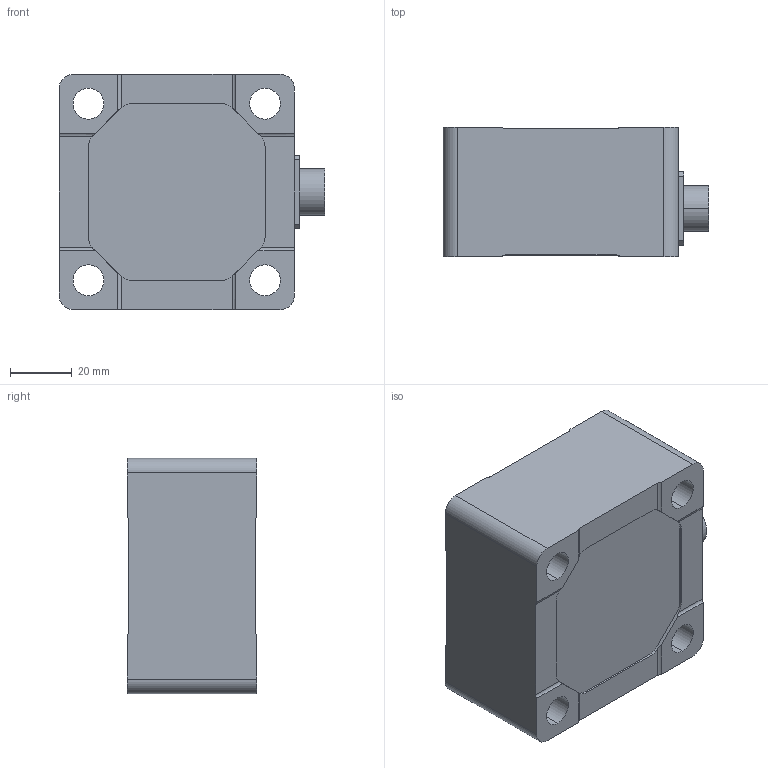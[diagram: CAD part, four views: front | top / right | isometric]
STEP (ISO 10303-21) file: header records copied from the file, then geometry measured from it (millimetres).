
FILE_DESCRIPTION (( 'STEP AP203' ), '1' );
FILE_NAME ('1007957.STEP', '2017-06-29T13:04:46', ( '' ), ( '' ), 'SwSTEP 2.0', 'SolidWorks 2014', '' );
FILE_SCHEMA (( 'CONFIG_CONTROL_DESIGN' ));
Length unit declared in the file: inch
Products named in the file (1): 1007957
Bounding box: 86.06 x 41.91 x 76.2 mm (x, y, z)
Volume: 224603 mm3; surface area: 29279.3 mm2
Topology: 1 solids, 1 shells, 96 faces, 276 edges, 184 vertices
Faces by surface type: cylinder 48, plane 48
Entity records: 3267 total; most frequent: CARTESIAN_POINT 665, ORIENTED_EDGE 552, DIRECTION 510, EDGE_CURVE 276, VERTEX_POINT 184, AXIS2_PLACEMENT_3D 173, LINE 164, VECTOR 164
